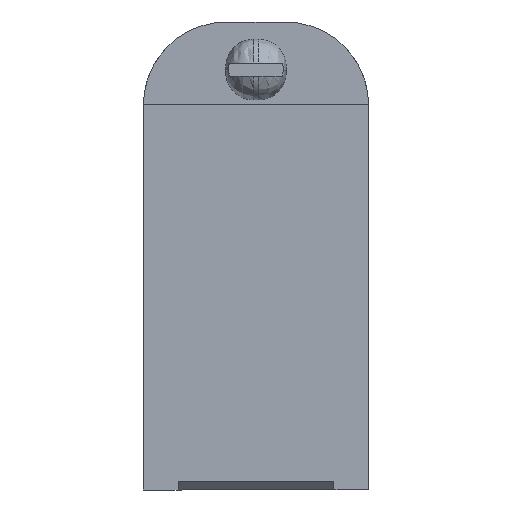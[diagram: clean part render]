
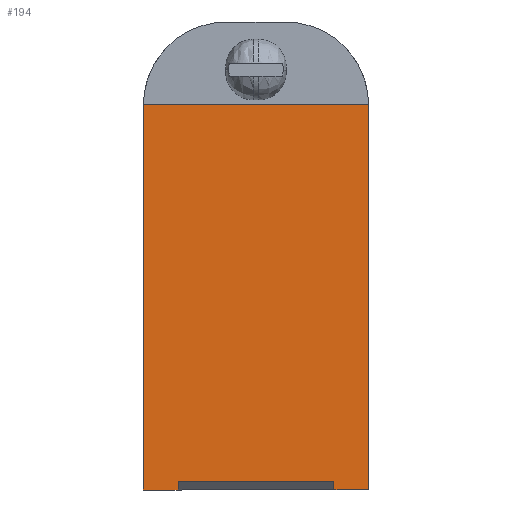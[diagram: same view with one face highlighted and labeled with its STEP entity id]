
A CAD part, left-side view. The second image highlights one B-rep face of the part: STEP entity #194.
In plain terms, the highlighted planar face has unit normal (-1, 0, 0).
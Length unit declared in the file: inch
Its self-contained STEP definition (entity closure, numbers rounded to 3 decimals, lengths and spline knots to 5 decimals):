
#194=ADVANCED_FACE('',(#393),#394,.T.);
#393=FACE_OUTER_BOUND('',#1555,.T.);
#394=PLANE('',#1556);
#1555=EDGE_LOOP('',(#2227,#2228,#2229,#2230,#2231,#2232,#2233,#2234,#2235,#2236));
#1556=AXIS2_PLACEMENT_3D('',#2237,#2238,#2239);
#2227=ORIENTED_EDGE('',*,*,#2451,.F.);
#2228=ORIENTED_EDGE('',*,*,#2559,.F.);
#2229=ORIENTED_EDGE('',*,*,#2576,.T.);
#2230=ORIENTED_EDGE('',*,*,#2606,.F.);
#2231=ORIENTED_EDGE('',*,*,#2508,.T.);
#2232=ORIENTED_EDGE('',*,*,#2565,.F.);
#2233=ORIENTED_EDGE('',*,*,#2433,.T.);
#2234=ORIENTED_EDGE('',*,*,#2478,.F.);
#2235=ORIENTED_EDGE('',*,*,#2419,.F.);
#2236=ORIENTED_EDGE('',*,*,#2499,.F.);
#2237=CARTESIAN_POINT('',(0.0,1.625,1.01675));
#2238=DIRECTION('',(-1.0,0.0,0.0));
#2239=DIRECTION('',(0.0,0.0,-1.0));
#2419=EDGE_CURVE('',#2659,#2655,#2661,.T.);
#2433=EDGE_CURVE('',#2686,#2684,#2687,.T.);
#2451=EDGE_CURVE('',#2717,#2719,#2720,.T.);
#2478=EDGE_CURVE('',#2655,#2684,#2763,.T.);
#2499=EDGE_CURVE('',#2719,#2659,#2797,.T.);
#2508=EDGE_CURVE('',#2807,#2809,#2811,.T.);
#2559=EDGE_CURVE('',#2885,#2717,#2887,.T.);
#2565=EDGE_CURVE('',#2686,#2809,#2897,.T.);
#2576=EDGE_CURVE('',#2885,#2913,#2915,.T.);
#2606=EDGE_CURVE('',#2807,#2913,#2948,.T.);
#2655=VERTEX_POINT('',#3051);
#2659=VERTEX_POINT('',#3057);
#2661=LINE('',#3060,#3061);
#2684=VERTEX_POINT('',#3091);
#2686=VERTEX_POINT('',#3094);
#2687=LINE('',#3095,#3096);
#2717=VERTEX_POINT('',#3213);
#2719=VERTEX_POINT('',#3216);
#2720=LINE('',#3217,#3218);
#2763=CIRCLE('',#3322,0.6);
#2797=CIRCLE('',#3430,0.6);
#2807=VERTEX_POINT('',#3443);
#2809=VERTEX_POINT('',#3446);
#2811=LINE('',#3449,#3450);
#2885=VERTEX_POINT('',#3655);
#2887=LINE('',#3658,#3659);
#2897=LINE('',#3674,#3675);
#2913=VERTEX_POINT('',#3750);
#2915=LINE('',#3753,#3754);
#2948=LINE('',#3861,#3862);
#3051=CARTESIAN_POINT('',(0.0,0.00003,2.5335));
#3057=CARTESIAN_POINT('',(0.0,1.62497,2.5335));
#3060=CARTESIAN_POINT('',(0.0,1.625,2.5335));
#3061=VECTOR('',#3938,1.);
#3091=CARTESIAN_POINT('',(0.0,0.,2.52725));
#3094=CARTESIAN_POINT('',(0.0,0.,-0.25));
#3095=CARTESIAN_POINT('',(0.0,0.,1.10932));
#3096=VECTOR('',#3953,1.0);
#3213=CARTESIAN_POINT('',(0.0,1.625,-0.25));
#3216=CARTESIAN_POINT('',(0.0,1.625,2.52725));
#3217=CARTESIAN_POINT('',(0.0,1.625,1.10932));
#3218=VECTOR('',#3964,1.0);
#3322=AXIS2_PLACEMENT_3D('',#3983,#3984,#3985);
#3430=AXIS2_PLACEMENT_3D('',#4009,#4010,#4011);
#3443=CARTESIAN_POINT('',(0.,0.25,-0.19));
#3446=CARTESIAN_POINT('',(0.0,0.25,-0.25));
#3449=CARTESIAN_POINT('',(0.,0.25,-0.25));
#3450=VECTOR('',#4020,1.);
#3655=CARTESIAN_POINT('',(0.0,1.375,-0.25));
#3658=CARTESIAN_POINT('',(0.0,1.375,-0.25));
#3659=VECTOR('',#4055,1.);
#3674=CARTESIAN_POINT('',(0.0,0.,-0.25));
#3675=VECTOR('',#4061,1.);
#3750=CARTESIAN_POINT('',(0.0,1.375,-0.19));
#3753=CARTESIAN_POINT('',(0.0,1.375,-0.25));
#3754=VECTOR('',#4063,1.);
#3861=CARTESIAN_POINT('',(0.0,1.625,-0.19));
#3862=VECTOR('',#4077,1.);
#3938=DIRECTION('',(0.0,-1.0,0.0));
#3953=DIRECTION('',(0.0,0.0,1.0));
#3964=DIRECTION('',(0.0,0.0,1.0));
#3983=CARTESIAN_POINT('',(0.0,0.6,2.52725));
#3984=DIRECTION('',(1.0,0.0,0.0));
#3985=DIRECTION('',(0.0,-0.707,0.707));
#4009=CARTESIAN_POINT('',(0.0,1.025,2.52725));
#4010=DIRECTION('',(1.0,0.0,-0.0));
#4011=DIRECTION('',(0.0,0.707,0.707));
#4020=DIRECTION('',(0.0,0.0,-1.0));
#4055=DIRECTION('',(0.0,1.0,0.0));
#4061=DIRECTION('',(0.0,1.0,0.0));
#4063=DIRECTION('',(0.0,0.0,1.0));
#4077=DIRECTION('',(0.0,1.0,0.0));
